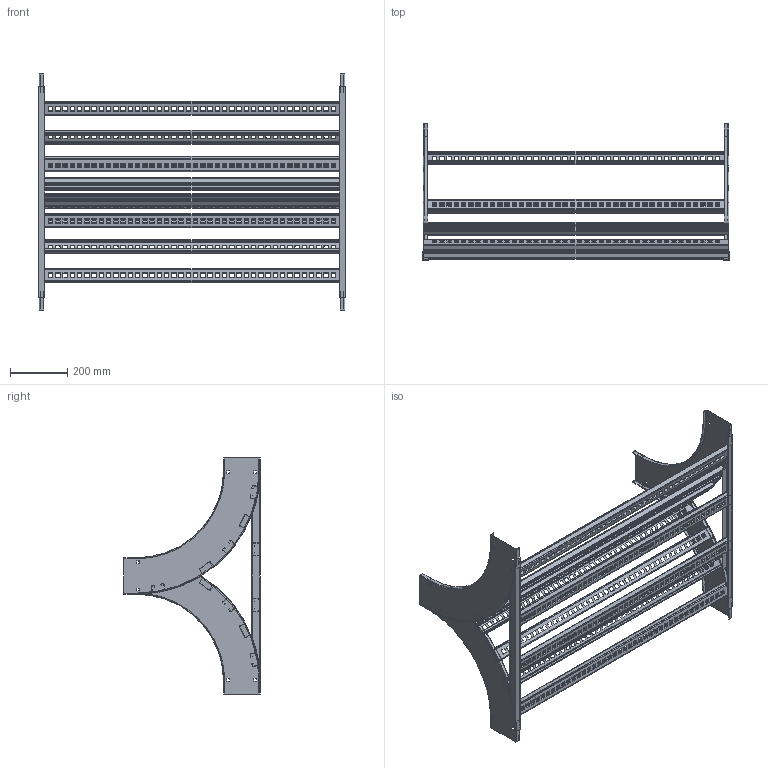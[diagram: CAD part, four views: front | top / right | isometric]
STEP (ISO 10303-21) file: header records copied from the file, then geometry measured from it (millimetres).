
FILE_DESCRIPTION((''),'2;1');
FILE_NAME('AUF542VVTU12_ASM','2010-01-27T',('erouzier'),(''),'PRO/ENGINEER BY PARAMETRIC TECHNOLOGY CORPORATION, 2008510','PRO/ENGINEER BY PARAMETRIC TECHNOLOGY CORPORATION, 2008510','');
FILE_SCHEMA(('CONFIG_CONTROL_DESIGN'));
Length unit declared in the file: inch
Products named in the file (7): CDS001417_5_90_12; CDS001417_5_90_12_AF2; CDS001417_5_90_12_AF3; CDS002159L42-P; CDS000495_GEN_AF6; CDS000495_GEN_AF7; AUF542VVTU12_ASM
Assembly tree (17 placements, depth 2):
  AUF542VVTU12_ASM
    CDS001417_5_90_12  x2
    CDS001417_5_90_12_AF2
    CDS001417_5_90_12_AF3
    CDS002159L42-P  x11
    CDS000495_GEN_AF6
    CDS000495_GEN_AF7
Bounding box: 1073.15 x 477.32 x 826.57 mm (x, y, z)
Volume: 2403400.6 mm3; surface area: 3454059.9 mm2
Topology: 17 solids, 17 shells, 4072 faces, 12006 edges, 7968 vertices
Faces by surface type: plane 2125, cylinder 1931, torus 16
Entity records: 17011 total; most frequent: CARTESIAN_POINT 3021, DIRECTION 2934, ORIENTED_EDGE 2860, EDGE_CURVE 1430, VECTOR 978, LINE 978, AXIS2_PLACEMENT_3D 978, VERTEX_POINT 928
